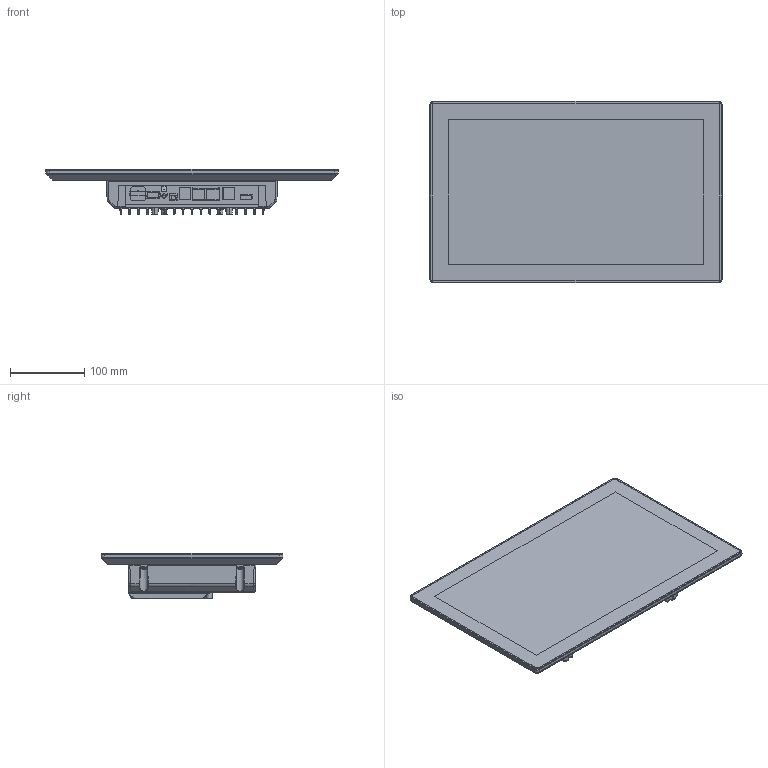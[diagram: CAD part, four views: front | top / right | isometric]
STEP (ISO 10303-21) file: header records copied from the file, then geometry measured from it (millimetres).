
FILE_DESCRIPTION (( 'STEP AP214' ), '1' );
FILE_NAME ('TP1520 (01-237-1520) Export20260225.STEP', '2026-02-25T13:47:22', ( '' ), ( '' ), 'SwSTEP 2.0', 'SolidWorks 2024', '' );
FILE_SCHEMA (( 'AUTOMOTIVE_DESIGN' ));
Length unit declared in the file: millimetre
Products named in the file (1): TP1520 (01-237-1520) Export20260225
Bounding box: 394.23 x 245.59 x 60.8 mm (x, y, z)
Volume: 2520202.9 mm3; surface area: 598900 mm2
Topology: 23 solids, 23 shells, 1687 faces, 3993 edges, 2312 vertices
Faces by surface type: cylinder 553, plane 459, bspline 354, torus 171, cone 138, sphere 12
Entity records: 84456 total; most frequent: CARTESIAN_POINT 30850, ORIENTED_EDGE 7846, DIRECTION 6933, EDGE_CURVE 3923, AXIS2_PLACEMENT_3D 2628, VERTEX_POINT 2312, EDGE_LOOP 1771, ADVANCED_FACE 1687
